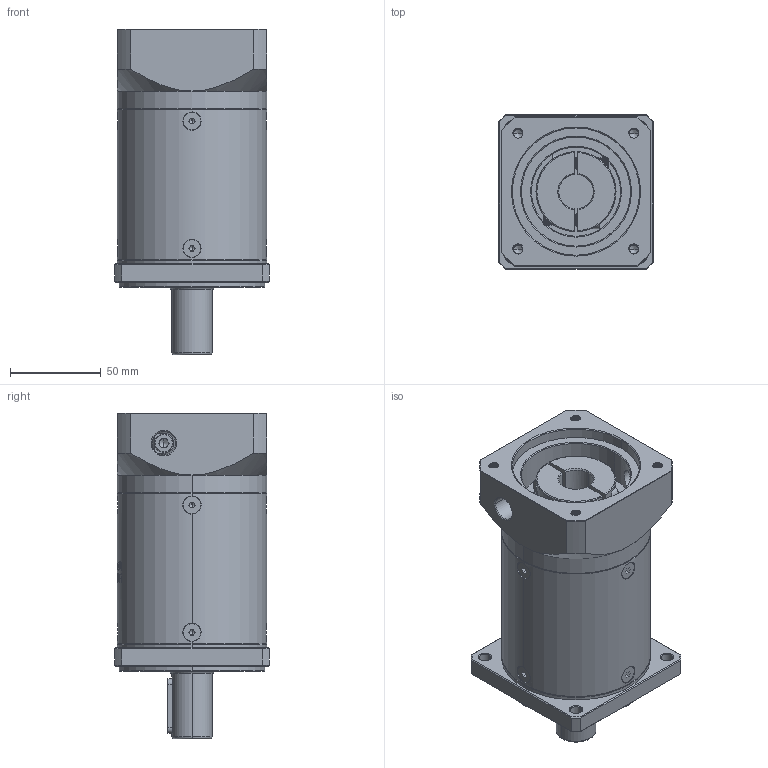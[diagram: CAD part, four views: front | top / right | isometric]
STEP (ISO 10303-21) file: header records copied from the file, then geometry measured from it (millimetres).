
FILE_DESCRIPTION (( 'STEP AP214' ), '1' );
FILE_NAME ('ZF080-D22-L3-P2-19-70-90-M6.step', '2023-08-19T05:33:52', ( '' ), ( '' ), 'SwSTEP 2.0', 'SolidWorks 2016', '' );
FILE_SCHEMA (( 'AUTOMOTIVE_DESIGN' ));
Length unit declared in the file: millimetre
Products named in the file (1): ZF080-D22-L3-P2-19-70-90-M6
Bounding box: 85 x 85 x 179 mm (x, y, z)
Volume: 739958.8 mm3; surface area: 96514.8 mm2
Topology: 13 solids, 13 shells, 2224 faces, 5828 edges, 3702 vertices
Faces by surface type: plane 1066, bspline 394, cylinder 390, cone 337, torus 37
Entity records: 118989 total; most frequent: CARTESIAN_POINT 44822, ORIENTED_EDGE 11596, DIRECTION 8592, EDGE_CURVE 5798, VERTEX_POINT 3702, VECTOR 3078, LINE 3078, AXIS2_PLACEMENT_3D 2757
